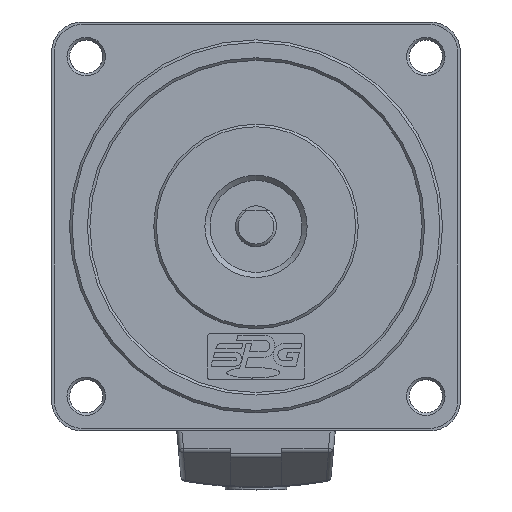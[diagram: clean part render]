
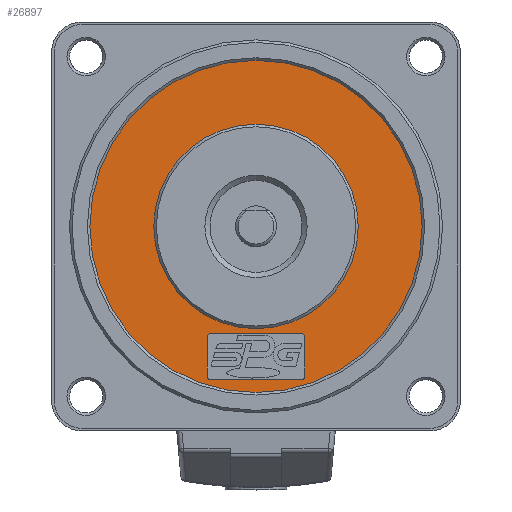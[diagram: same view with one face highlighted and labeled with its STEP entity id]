
A CAD part, top view. The second image highlights one B-rep face of the part: STEP entity #26897.
In plain terms, the highlighted planar face has unit normal (0, 0, 1).
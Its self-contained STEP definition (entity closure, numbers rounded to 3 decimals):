
#24861=CARTESIAN_POINT('',(-30.5,18.5,66.481));
#24862=VERTEX_POINT('',#24861);
#24869=CARTESIAN_POINT('',(-31.,19.,66.481));
#24870=VERTEX_POINT('',#24869);
#24871=CARTESIAN_POINT('',(-31.,18.5,66.481));
#24872=DIRECTION('',(0.,0.,1.0));
#24873=DIRECTION('',(0.707,0.707,0.));
#24874=AXIS2_PLACEMENT_3D('',#24871,#24872,#24873);
#24875=CIRCLE('',#24874,0.5);
#24876=EDGE_CURVE('',#24862,#24870,#24875,.T.);
#24901=CARTESIAN_POINT('',(-30.5,10.5,66.481));
#24902=VERTEX_POINT('',#24901);
#24909=CARTESIAN_POINT('',(-30.5,18.5,66.481));
#24910=DIRECTION('',(0.0,-1.0,0.0));
#24911=VECTOR('',#24910,8.);
#24912=LINE('',#24909,#24911);
#24913=EDGE_CURVE('',#24862,#24902,#24912,.T.);
#24932=CARTESIAN_POINT('',(-31.,10.,66.481));
#24933=VERTEX_POINT('',#24932);
#24940=CARTESIAN_POINT('',(-31.,10.5,66.481));
#24941=DIRECTION('',(0.,0.,1.));
#24942=DIRECTION('',(0.707,-0.707,0.));
#24943=AXIS2_PLACEMENT_3D('',#24940,#24941,#24942);
#24944=CIRCLE('',#24943,0.5);
#24945=EDGE_CURVE('',#24933,#24902,#24944,.T.);
#24965=CARTESIAN_POINT('',(-49.0,10.,66.481));
#24966=VERTEX_POINT('',#24965);
#24973=CARTESIAN_POINT('',(-31.,10.,66.481));
#24974=DIRECTION('',(-1.0,0.0,0.0));
#24975=VECTOR('',#24974,18.0);
#24976=LINE('',#24973,#24975);
#24977=EDGE_CURVE('',#24933,#24966,#24976,.T.);
#24996=CARTESIAN_POINT('',(-49.5,10.5,66.481));
#24997=VERTEX_POINT('',#24996);
#25004=CARTESIAN_POINT('',(-49.0,10.5,66.481));
#25005=DIRECTION('',(0.,0.,1.0));
#25006=DIRECTION('',(-0.707,-0.707,0.));
#25007=AXIS2_PLACEMENT_3D('',#25004,#25005,#25006);
#25008=CIRCLE('',#25007,0.5);
#25009=EDGE_CURVE('',#24997,#24966,#25008,.T.);
#25029=CARTESIAN_POINT('',(-49.5,18.5,66.481));
#25030=VERTEX_POINT('',#25029);
#25037=CARTESIAN_POINT('',(-49.5,10.5,66.481));
#25038=DIRECTION('',(0.0,1.0,0.0));
#25039=VECTOR('',#25038,8.);
#25040=LINE('',#25037,#25039);
#25041=EDGE_CURVE('',#24997,#25030,#25040,.T.);
#25060=CARTESIAN_POINT('',(-49.0,19.,66.481));
#25061=VERTEX_POINT('',#25060);
#25068=CARTESIAN_POINT('',(-49.0,18.5,66.481));
#25069=DIRECTION('',(0.,0.,1.0));
#25070=DIRECTION('',(-0.707,0.707,0.));
#25071=AXIS2_PLACEMENT_3D('',#25068,#25069,#25070);
#25072=CIRCLE('',#25071,0.5);
#25073=EDGE_CURVE('',#25061,#25030,#25072,.T.);
#26462=CARTESIAN_POINT('',(-49.,19.,66.481));
#26463=DIRECTION('',(1.0,0.0,0.0));
#26464=VECTOR('',#26463,18.0);
#26465=LINE('',#26462,#26464);
#26466=EDGE_CURVE('',#25061,#24870,#26465,.T.);
#26845=CARTESIAN_POINT('',(-20.,40.,66.481));
#26846=VERTEX_POINT('',#26845);
#26847=CARTESIAN_POINT('',(-40.,40.,66.481));
#26848=DIRECTION('',(0.0,0.0,1.0));
#26849=DIRECTION('',(-1.0,0.0,0.0));
#26850=AXIS2_PLACEMENT_3D('',#26847,#26848,#26849);
#26851=CIRCLE('',#26850,20.0);
#26852=EDGE_CURVE('',#26846,#26846,#26851,.T.);
#26868=CARTESIAN_POINT('',(-40.,40.,66.481));
#26869=DIRECTION('',(0.0,0.0,-1.0));
#26870=DIRECTION('',(-1.0,0.0,0.0));
#26871=AXIS2_PLACEMENT_3D('',#26868,#26869,#26870);
#26872=PLANE('',#26871);
#26873=CARTESIAN_POINT('',(-7.5,40.,66.481));
#26874=VERTEX_POINT('',#26873);
#26875=CARTESIAN_POINT('',(-40.,40.,66.481));
#26876=DIRECTION('',(0.0,0.0,-1.0));
#26877=DIRECTION('',(-1.0,0.0,0.0));
#26878=AXIS2_PLACEMENT_3D('',#26875,#26876,#26877);
#26879=CIRCLE('',#26878,32.5);
#26880=EDGE_CURVE('',#26874,#26874,#26879,.T.);
#26881=ORIENTED_EDGE('',*,*,#26880,.F.);
#26882=EDGE_LOOP('',(#26881));
#26883=FACE_OUTER_BOUND('',#26882,.T.);
#26884=ORIENTED_EDGE('',*,*,#25041,.T.);
#26885=ORIENTED_EDGE('',*,*,#25073,.F.);
#26886=ORIENTED_EDGE('',*,*,#26466,.T.);
#26887=ORIENTED_EDGE('',*,*,#24876,.F.);
#26888=ORIENTED_EDGE('',*,*,#24913,.T.);
#26889=ORIENTED_EDGE('',*,*,#24945,.F.);
#26890=ORIENTED_EDGE('',*,*,#24977,.T.);
#26891=ORIENTED_EDGE('',*,*,#25009,.F.);
#26892=EDGE_LOOP('',(#26884,#26885,#26886,#26887,#26888,#26889,#26890,#26891));
#26893=FACE_BOUND('',#26892,.T.);
#26894=ORIENTED_EDGE('',*,*,#26852,.F.);
#26895=EDGE_LOOP('',(#26894));
#26896=FACE_BOUND('',#26895,.T.);
#26897=ADVANCED_FACE('',(#26883,#26893,#26896),#26872,.F.);
